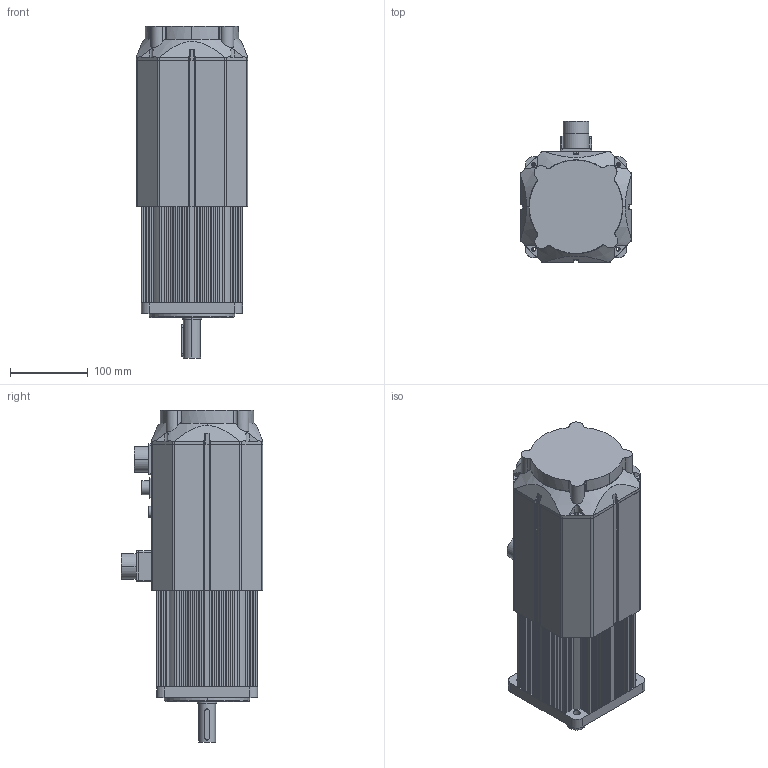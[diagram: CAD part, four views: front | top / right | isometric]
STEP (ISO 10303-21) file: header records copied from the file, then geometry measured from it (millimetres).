
FILE_DESCRIPTION (( 'STEP AP203' ), '1' );
FILE_NAME ('ASMJ-13-3825B-G342-01.STEP', '2024-04-10T08:59:24', ( 'Admin' ), ( '' ), 'SwSTEP 2.0', 'SolidWorks 2018', '' );
FILE_SCHEMA (( 'CONFIG_CONTROL_DESIGN' ));
Length unit declared in the file: millimetre
Products named in the file (1): ASMJ-13-3825B-G342-01
Bounding box: 143.07 x 181.83 x 427 mm (x, y, z)
Volume: 2016655 mm3; surface area: 826241.2 mm2
Topology: 16 solids, 16 shells, 1634 faces, 4605 edges, 2992 vertices
Faces by surface type: plane 948, cylinder 604, bspline 58, cone 24
Entity records: 55459 total; most frequent: CARTESIAN_POINT 12759, ORIENTED_EDGE 9050, DIRECTION 8725, EDGE_CURVE 4525, LINE 3043, VECTOR 3043, VERTEX_POINT 2992, AXIS2_PLACEMENT_3D 2841
